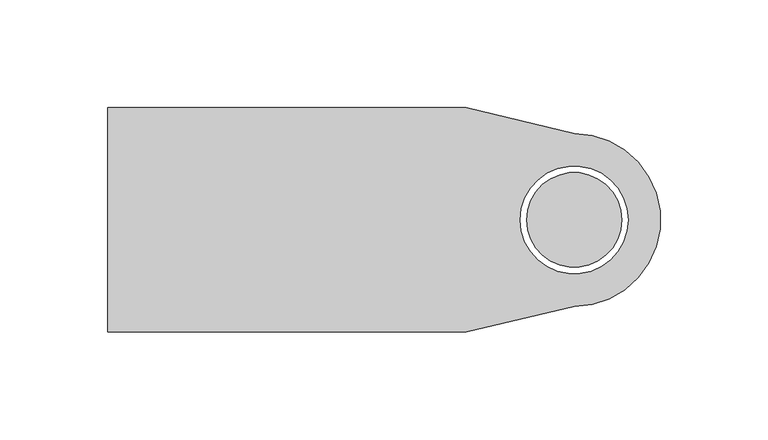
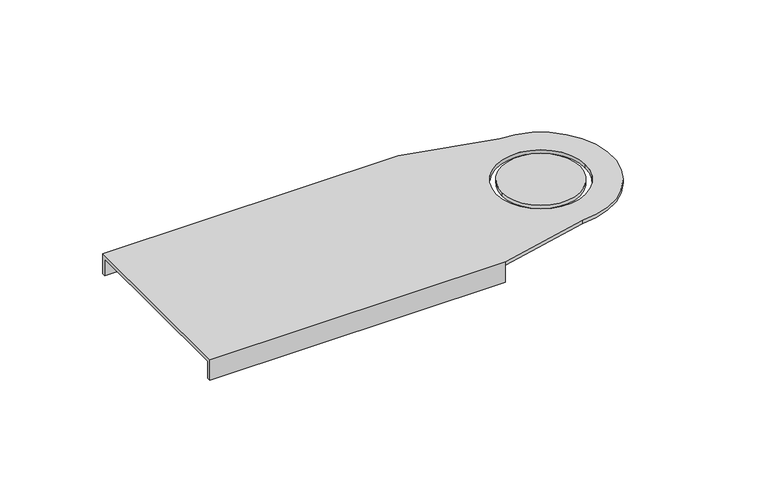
"""IFC4 building model written with IfcOpenShell, lengths in millimetres: cable carrier fitting geometry, BAKS_LDLS_BEND_Articulated connector for LLDS_LGSU : LGSUC_H100."""

from ifc_helpers import new_model, si_unit, frame, origin, place, context, project, spatial, polyline, circle_curve, source, transform, mapped, element, save
from ifc_brep_helpers import plane_surface, cylinder_surface, revolved_surface, advanced_brep


def cable_carrier_fitting_052320e9(model_context):
    return source(origin(), model_context, "Body", "AdvancedBrep", [
        advanced_brep(
        [(-216.0, -52.0, 2.0), (-50.0, -52.0, 2.0), (0.0, -40.0, 2.0), (0.0, 40.0, 2.0), (-50.0, 52.0, 2.0), (-216.0, 52.0, 2.0), (25.0, 0.0, 2.0), (-25.0, 0.0, 2.0), (-50.0, 52.0, 0.0), (0.0, 40.0, 0.0), (0.0, -40.0, 0.0), (-50.0, -52.0, 0.0), (-50.0, -50.0, 0.0), (-216.0, -50.0, 0.0), (-216.0, 50.0, 0.0), (-50.0, 50.0, 0.0), (-25.0, 0.0, 0.0), (25.0, 0.0, 0.0), (-216.0, -52.0, -10.0), (-50.0, -52.0, -10.0), (-50.0, 52.0, -10.0), (-216.0, 52.0, -10.0), (-216.0, 50.0, -10.0), (-216.0, -50.0, -10.0), (-50.0, 50.0, -10.0), (-50.0, -50.0, -10.0)],
        [
            (0, 1),
            (1, 2),
            (2, 3, circle_curve(frame((0.0, 0.0, 2.0), z_axis=(0.0, 0.0, 1.0), x_axis=(-1.0, 0.0, 0.0)), 40.0)),
            (3, 4),
            (4, 5),
            (5, 0),
            (6, 7, circle_curve(frame((0.0, 0.0, 2.0), z_axis=(0.0, 0.0, -1.0), x_axis=(-1.0, 0.0, 0.0)), 25.0)),
            (7, 6, circle_curve(frame((0.0, 0.0, 2.0), z_axis=(0.0, 0.0, -1.0), x_axis=(-1.0, 0.0, 0.0)), 25.0)),
            (8, 9),
            (9, 10, circle_curve(frame((0.0, 0.0, 0.0), z_axis=(0.0, 0.0, -1.0), x_axis=(-1.0, 0.0, 0.0)), 40.0)),
            (10, 11),
            (11, 12),
            (12, 13),
            (13, 14),
            (14, 15),
            (15, 8),
            (16, 17, circle_curve(frame((0.0, 0.0, 0.0), z_axis=(0.0, 0.0, 1.0), x_axis=(-1.0, 0.0, 0.0)), 25.0)),
            (17, 16, circle_curve(frame((0.0, 0.0, 0.0), z_axis=(0.0, 0.0, 1.0), x_axis=(-1.0, 0.0, 0.0)), 25.0)),
            (0, 18),
            (18, 19),
            (19, 11),
            (11, 1),
            (4, 8),
            (8, 20),
            (20, 21),
            (21, 5),
            (21, 22),
            (22, 14),
            (13, 23),
            (23, 18),
            (6, 17),
            (16, 7),
            (10, 2),
            (9, 3),
            (20, 24),
            (24, 22),
            (24, 15),
            (23, 25),
            (25, 19),
            (25, 12),
        ],
        [
            plane_surface(frame((-50.0, -52.0, 2.0), z_axis=(0.0, 0.0, 1.0), x_axis=(1.0, 0.0, 0.0))),
            plane_surface(frame((-50.0, -52.0, 0.0), z_axis=(0.0, 0.0, -1.0), x_axis=(-1.0, 0.0, 0.0))),
            plane_surface(frame((-216.0, -52.0, 2.0), z_axis=(0.0, -1.0, 0.0), x_axis=(0.0, 0.0, -1.0))),
            plane_surface(frame((-50.0, 52.0, 2.0), z_axis=(0.0, 1.0, 0.0), x_axis=(0.0, 0.0, -1.0))),
            plane_surface(frame((-216.0, 52.0, 2.0), z_axis=(-1.0, 0.0, 0.0), x_axis=(0.0, 0.0, -1.0))),
            revolved_surface(polyline([(-25.0, 0.0, 2.0), (-25.0, 0.0, 0.0)]), (0.0, 0.0, 0.0), (0.0, 0.0, 1.0)),
            plane_surface(frame((-50.0, -52.0, 2.0), z_axis=(0.23337295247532, -0.9723873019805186, 0.0), x_axis=(0.0, 0.0, -1.0))),
            cylinder_surface(frame((0.0, 0.0, 0.0), z_axis=(0.0, 0.0, 1.0), x_axis=(-1.0, 0.0, 0.0)), 40.0),
            plane_surface(frame((0.0, 40.0, 2.0), z_axis=(0.2333729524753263, 0.972387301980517, 0.0), x_axis=(0.0, 0.0, -1.0))),
            plane_surface(frame((-50.0, 50.0, -10.0), z_axis=(0.0, 0.0, -1.0), x_axis=(-1.0, 0.0, 0.0))),
            plane_surface(frame((-216.0, 50.0, 0.0), z_axis=(0.0, -1.0, 0.0), x_axis=(0.0, 0.0, -1.0))),
            plane_surface(frame((-50.0, 50.0, 0.0), z_axis=(1.0, 0.0, 0.0), x_axis=(0.0, 0.0, -1.0))),
            plane_surface(frame((-50.0, -52.0, -10.0), z_axis=(0.0, 0.0, -1.0), x_axis=(-1.0, 0.0, 0.0))),
            plane_surface(frame((-50.0, -52.0, 0.0), z_axis=(1.0, 0.0, 0.0), x_axis=(0.0, 0.0, -1.0))),
            plane_surface(frame((-50.0, -50.0, 0.0), z_axis=(0.0, 1.0, 0.0), x_axis=(0.0, 0.0, -1.0))),
        ],
        [
            (0, [[1, 2, 3, 4, 5, 6], [7, 8]]),
            (1, [[9, 10, 11, 12, 13, 14, 15, 16], [17, 18]]),
            (2, [[-1, 19, 20, 21, 22]]),
            (3, [[-5, 23, 24, 25, 26]]),
            (4, [[-19, -6, -26, 27, 28, -14, 29, 30]]),
            (5, [[31, -17, 32, -7]]),
            (5, [[-31, -8, -32, -18]]),
            (6, [[-2, -22, -11, 33]]),
            (7, [[-3, -33, -10, 34]]),
            (8, [[-4, -34, -9, -23]]),
            (9, [[-27, -25, 35, 36]]),
            (10, [[-36, 37, -15, -28]]),
            (11, [[-35, -24, -16, -37]]),
            (12, [[-30, 38, 39, -20]]),
            (13, [[-39, 40, -12, -21]]),
            (14, [[-38, -29, -13, -40]]),
        ],
    ),
        advanced_brep(
        [(22.0, 0.0, 2.0), (-22.0, 0.0, 2.0), (-22.0, 0.0, 0.0), (22.0, 0.0, 0.0)],
        [
            (0, 1, circle_curve(frame((0.0, 0.0, 2.0), z_axis=(0.0, 0.0, 1.0), x_axis=(-1.0, 0.0, 0.0)), 22.0)),
            (1, 0, circle_curve(frame((0.0, 0.0, 2.0), z_axis=(0.0, 0.0, 1.0), x_axis=(-1.0, 0.0, 0.0)), 22.0)),
            (2, 3, circle_curve(frame((0.0, 0.0, 0.0), z_axis=(0.0, 0.0, -1.0), x_axis=(-1.0, 0.0, 0.0)), 22.0)),
            (3, 2, circle_curve(frame((0.0, 0.0, 0.0), z_axis=(0.0, 0.0, -1.0), x_axis=(-1.0, 0.0, 0.0)), 22.0)),
            (0, 3),
            (2, 1),
        ],
        [
            plane_surface(frame((-50.0, -52.0, 2.0), z_axis=(0.0, 0.0, 1.0), x_axis=(1.0, 0.0, 0.0))),
            plane_surface(frame((-50.0, -52.0, 0.0), z_axis=(0.0, 0.0, -1.0), x_axis=(-1.0, 0.0, 0.0))),
            cylinder_surface(frame((0.0, 0.0, 0.0), z_axis=(0.0, 0.0, -1.0), x_axis=(-1.0, 0.0, 0.0)), 22.0),
        ],
        [
            (0, [[1, 2]]),
            (1, [[3, 4]]),
            (2, [[5, -3, 6, -1]]),
            (2, [[-5, -2, -6, -4]]),
        ],
    ),
    ])


if __name__ == "__main__":
    model = new_model("IFC4")
    model_context = context("Model", 3, world=origin())
    ifc_project = project(units=[si_unit("LENGTHUNIT", "METRE", prefix="MILLI")], contexts=[model_context])
    site = spatial("IfcSite", under=ifc_project)
    building = spatial("IfcBuilding", under=site)
    placement = place(None, origin())
    cable_carrier_fitting_shape = cable_carrier_fitting_052320e9(model_context)
    element("IfcCableCarrierFitting", 1, ObjectType="BAKS_LDLS_BEND_Articulated connector for LLDS_LGSU : LGSUC_H100", at=placement, inside=building, context=model_context, shape_type="MappedRepresentation", body=[
        mapped(cable_carrier_fitting_shape, transform((0.0, 0.0, 0.0), x_axis=(1.0, 0.0, 0.0), y_axis=(0.0, 1.0, 0.0), z_axis=(0.0, 0.0, 1.0))),
    ])
    save(model, "model.ifc")
